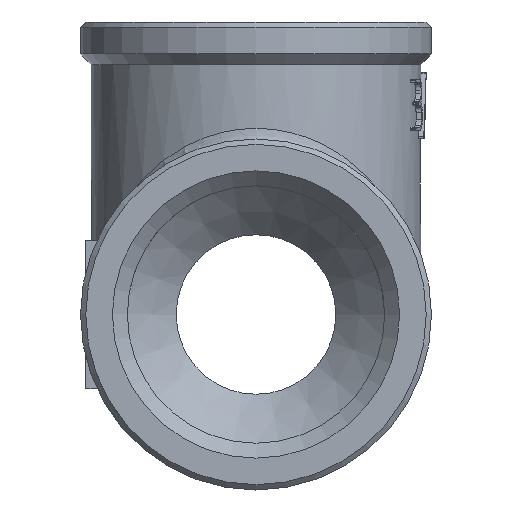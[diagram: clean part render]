
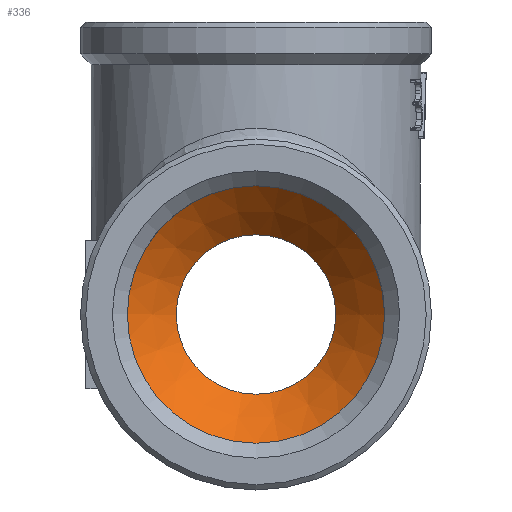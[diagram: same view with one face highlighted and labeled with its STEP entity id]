
A CAD part, front view. The second image highlights one B-rep face of the part: STEP entity #336.
In plain terms, the highlighted conical face has half-angle 45 degrees and reference radius 9.8 mm.
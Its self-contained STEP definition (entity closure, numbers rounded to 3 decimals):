
#336=ADVANCED_FACE('',(#2966,#2968),#2970,.F.);
#2966=FACE_OUTER_BOUND('',#2967,.T.);
#2967=EDGE_LOOP('',(#5480));
#2968=FACE_BOUND('',#2969,.T.);
#2969=EDGE_LOOP('',(#5481,#5482));
#2970=CONICAL_SURFACE('',#2971,9.8,0.785);
#2971=AXIS2_PLACEMENT_3D('',#2972,#2973,#2974);
#2972=CARTESIAN_POINT('',(0.,18.7,0.));
#2973=DIRECTION('',(0.,-1.,0.));
#2974=DIRECTION('',(1.,0.,0.));
#5480=ORIENTED_EDGE('',*,*,#6676,.F.);
#5481=ORIENTED_EDGE('',*,*,#6678,.F.);
#5482=ORIENTED_EDGE('',*,*,#6679,.F.);
#6676=EDGE_CURVE('',#8219,#8219,#8220,.F.);
#6678=EDGE_CURVE('',#8223,#8224,#8225,.T.);
#6679=EDGE_CURVE('',#8224,#8223,#8226,.T.);
#8219=VERTEX_POINT('',#15296);
#8220=CIRCLE('',#15297,12.1);
#8223=VERTEX_POINT('',#15306);
#8224=VERTEX_POINT('',#15307);
#8225=CIRCLE('',#15308,7.5);
#8226=CIRCLE('',#15312,7.5);
#15296=CARTESIAN_POINT('',(12.1,16.4,0.));
#15297=AXIS2_PLACEMENT_3D('',#15298,#15299,#15300);
#15298=CARTESIAN_POINT('',(0.,16.4,0.));
#15299=DIRECTION('',(0.,-1.,0.));
#15300=DIRECTION('',(1.,0.,0.));
#15306=CARTESIAN_POINT('',(-7.5,21.,0.));
#15307=CARTESIAN_POINT('',(7.5,21.,0.));
#15308=AXIS2_PLACEMENT_3D('',#15309,#15310,#15311);
#15309=CARTESIAN_POINT('',(0.,21.,0.));
#15310=DIRECTION('',(0.,-1.,0.));
#15311=DIRECTION('',(-1.,0.,0.));
#15312=AXIS2_PLACEMENT_3D('',#15313,#15314,#15315);
#15313=CARTESIAN_POINT('',(0.,21.,0.));
#15314=DIRECTION('',(0.,-1.,0.));
#15315=DIRECTION('',(1.,0.,0.));
